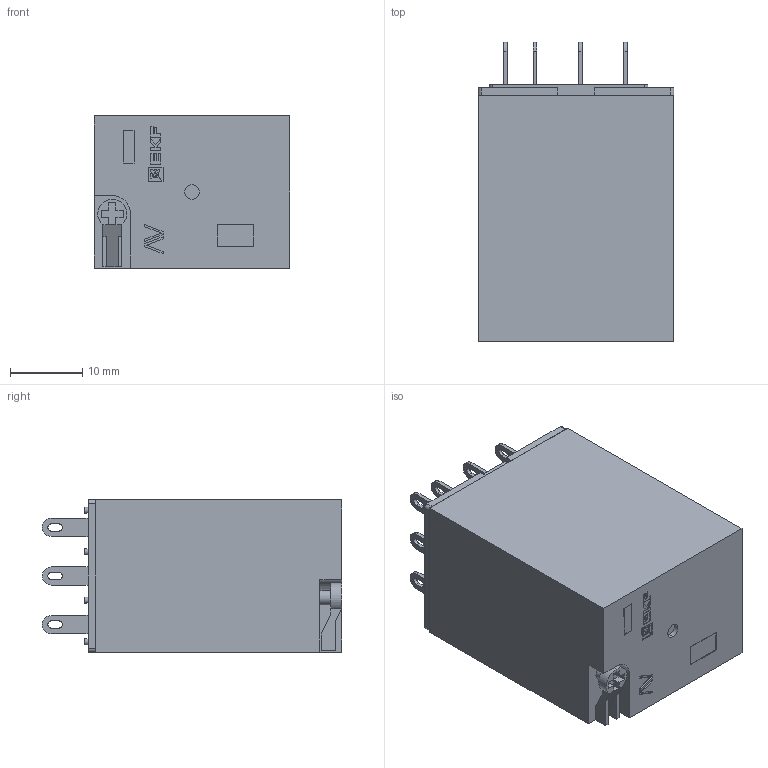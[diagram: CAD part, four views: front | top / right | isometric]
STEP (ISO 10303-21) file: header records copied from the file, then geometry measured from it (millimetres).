
FILE_DESCRIPTION (( 'STEP AP203' ), '1' );
FILE_NAME ('rpat-22-3-24(110)DC.ÃÌ Ðåëå ïðîìåæóòî÷íîå ñ êíîïêîé è ìåõ. Èíäèêàöèåé.STEP', '2024-04-08T13:18:46', ( '' ), ( '' ), 'SwSTEP 2.0', 'SolidWorks 2021', '' );
FILE_SCHEMA (( 'CONFIG_CONTROL_DESIGN' ));
Length unit declared in the file: millimetre
Products named in the file (1): rpat-22-3-24(110)DC.ÃÌ Ðåëå ïðîìåæóòî÷íîå ñ êíîïêîé è ìåõ. Èíäèêàöèåé
Bounding box: 27 x 41.3 x 21 mm (x, y, z)
Volume: 19814.9 mm3; surface area: 6228.6 mm2
Topology: 14 solids, 14 shells, 286 faces, 717 edges, 475 vertices
Faces by surface type: plane 220, cylinder 52, bspline 14
Entity records: 8618 total; most frequent: CARTESIAN_POINT 1651, ORIENTED_EDGE 1430, DIRECTION 1341, EDGE_CURVE 715, LINE 583, VECTOR 583, VERTEX_POINT 475, AXIS2_PLACEMENT_3D 379
